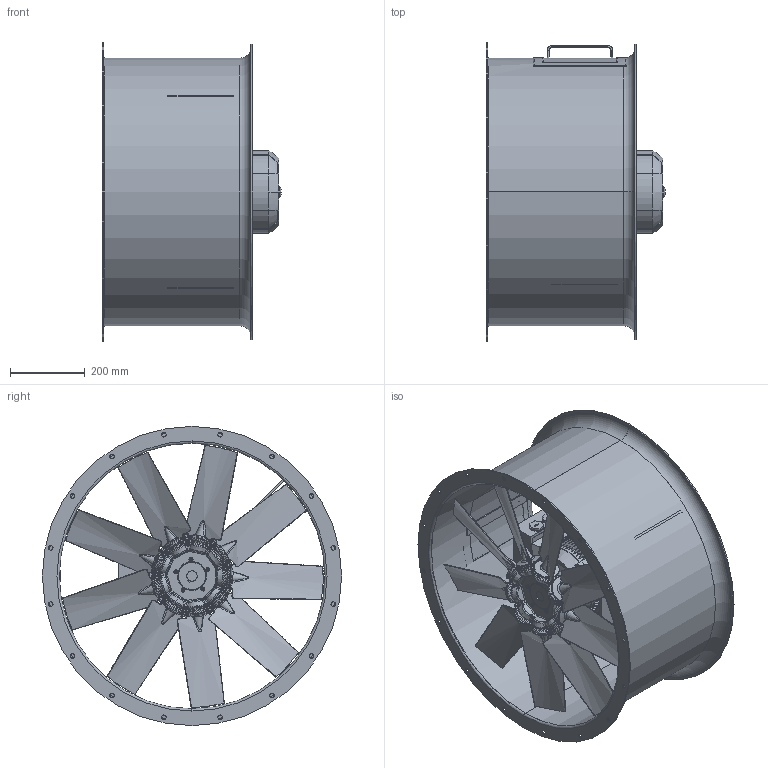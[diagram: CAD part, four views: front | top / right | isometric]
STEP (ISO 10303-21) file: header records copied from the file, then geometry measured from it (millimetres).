
FILE_DESCRIPTION (( 'STEP AP214' ), '1' );
FILE_NAME ('Assem_BRV 710_FF_L=400_mot.112_kort utf.STEP', '2020-09-03T06:59:24', ( '' ), ( '' ), 'SwSTEP 2.0', 'SolidWorks 2016', '' );
FILE_SCHEMA (( 'AUTOMOTIVE_DESIGN' ));
Length unit declared in the file: millimetre
Products named in the file (26): M8_C1-1 Bolt And Nuts - 702_9-9_29_PPG_4ZL_28_8_62_A-122724_7; Boss Bolt And Nuts - 702_9-9_29_PPG_4ZL_28_8_62_A-122724; C1-1-Nuts-Y63206000040_702_9-9_29_PPG_4ZL_28_8_62_A-122724; M8_C1-1 Bolt And Nuts - 702_9-9_29_PPG_4ZL_28_8_62_A-122724_6; 14100100049 - 702_9-9_29_PPG_4ZL_28_8_62_A-122724; 1TZ9 C 112M-4 4kW B3 IE3; 24000706200 - 702_9-9_29_PPG_4ZL_28_8_62_A-122724; C1-1-Bolt-Y62006350040_702_9-9_29_PPG_4ZL_28_8_62_A-122724; 21090708103 - 702_9-9_29_PPG_4ZL_28_8_62_A-122724; BRV 710_FF_L=400_mot.112_kort utf; BRV 710 Insp.luke 200x200; M8_C1-1 Bolt And Nuts - 702_9-9_29_PPG_4ZL_28_8_62_A-122724_3; M8_C1-1 Bolt And Nuts - 702_9-9_29_PPG_4ZL_28_8_62_A-122724; BB-Bolt-Y62006200040_702_9-9_29_PPG_4ZL_28_8_62_A-122724; Boss Bolt And Nuts - 702_9-9_29_PPG_4ZL_28_8_62_A-122724_5; Boss Bolt And Nuts - 702_9-9_29_PPG_4ZL_28_8_62_A-122724_3; 702_9-9_29_PPG_4ZL_28_8_62_A-122724; M8_C1-1 Bolt And Nuts - 702_9-9_29_PPG_4ZL_28_8_62_A-122724_9; M8_C1-1 Bolt And Nuts - 702_9-9_29_PPG_4ZL_28_8_62_A-122724_5; Assem_BRV 710_FF_L=400_mot.112_kort utf; Boss Bolt And Nuts - 702_9-9_29_PPG_4ZL_28_8_62_A-122724_2; BB-Nut-Y63206000040_702_9-9_29_PPG_4ZL_28_8_62_A-122724; M8_C1-1 Bolt And Nuts - 702_9-9_29_PPG_4ZL_28_8_62_A-122724_8; M8_C1-1 Bolt And Nuts - 702_9-9_29_PPG_4ZL_28_8_62_A-122724_2; M8_C1-1 Bolt And Nuts - 702_9-9_29_PPG_4ZL_28_8_62_A-122724_4; Boss Bolt And Nuts - 702_9-9_29_PPG_4ZL_28_8_62_A-122724_4
Assembly tree (58 placements, depth 4):
  Assem_BRV 710_FF_L=400_mot.112_kort utf
    BRV 710_FF_L=400_mot.112_kort utf
    1TZ9 C 112M-4 4kW B3 IE3
    BRV 710 Insp.luke 200x200
    702_9-9_29_PPG_4ZL_28_8_62_A-122724
      21090708103 - 702_9-9_29_PPG_4ZL_28_8_62_A-122724  x2
      14100100049 - 702_9-9_29_PPG_4ZL_28_8_62_A-122724  x9
      24000706200 - 702_9-9_29_PPG_4ZL_28_8_62_A-122724
      Boss Bolt And Nuts - 702_9-9_29_PPG_4ZL_28_8_62_A-122724
        BB-Bolt-Y62006200040_702_9-9_29_PPG_4ZL_28_8_62_A-122724
        BB-Nut-Y63206000040_702_9-9_29_PPG_4ZL_28_8_62_A-122724
      M8_C1-1 Bolt And Nuts - 702_9-9_29_PPG_4ZL_28_8_62_A-122724
        C1-1-Bolt-Y62006350040_702_9-9_29_PPG_4ZL_28_8_62_A-122724
        C1-1-Nuts-Y63206000040_702_9-9_29_PPG_4ZL_28_8_62_A-122724
      Boss Bolt And Nuts - 702_9-9_29_PPG_4ZL_28_8_62_A-122724_2
        BB-Bolt-Y62006200040_702_9-9_29_PPG_4ZL_28_8_62_A-122724
        BB-Nut-Y63206000040_702_9-9_29_PPG_4ZL_28_8_62_A-122724
      Boss Bolt And Nuts - 702_9-9_29_PPG_4ZL_28_8_62_A-122724_3
        BB-Bolt-Y62006200040_702_9-9_29_PPG_4ZL_28_8_62_A-122724
        BB-Nut-Y63206000040_702_9-9_29_PPG_4ZL_28_8_62_A-122724
      Boss Bolt And Nuts - 702_9-9_29_PPG_4ZL_28_8_62_A-122724_4
        BB-Bolt-Y62006200040_702_9-9_29_PPG_4ZL_28_8_62_A-122724
        BB-Nut-Y63206000040_702_9-9_29_PPG_4ZL_28_8_62_A-122724
      Boss Bolt And Nuts - 702_9-9_29_PPG_4ZL_28_8_62_A-122724_5
        BB-Bolt-Y62006200040_702_9-9_29_PPG_4ZL_28_8_62_A-122724
        BB-Nut-Y63206000040_702_9-9_29_PPG_4ZL_28_8_62_A-122724
      M8_C1-1 Bolt And Nuts - 702_9-9_29_PPG_4ZL_28_8_62_A-122724_2
        C1-1-Bolt-Y62006350040_702_9-9_29_PPG_4ZL_28_8_62_A-122724
        C1-1-Nuts-Y63206000040_702_9-9_29_PPG_4ZL_28_8_62_A-122724
      M8_C1-1 Bolt And Nuts - 702_9-9_29_PPG_4ZL_28_8_62_A-122724_3
        C1-1-Bolt-Y62006350040_702_9-9_29_PPG_4ZL_28_8_62_A-122724
        C1-1-Nuts-Y63206000040_702_9-9_29_PPG_4ZL_28_8_62_A-122724
      M8_C1-1 Bolt And Nuts - 702_9-9_29_PPG_4ZL_28_8_62_A-122724_4
        C1-1-Bolt-Y62006350040_702_9-9_29_PPG_4ZL_28_8_62_A-122724
        C1-1-Nuts-Y63206000040_702_9-9_29_PPG_4ZL_28_8_62_A-122724
      M8_C1-1 Bolt And Nuts - 702_9-9_29_PPG_4ZL_28_8_62_A-122724_5
        C1-1-Bolt-Y62006350040_702_9-9_29_PPG_4ZL_28_8_62_A-122724
        C1-1-Nuts-Y63206000040_702_9-9_29_PPG_4ZL_28_8_62_A-122724
      M8_C1-1 Bolt And Nuts - 702_9-9_29_PPG_4ZL_28_8_62_A-122724_6
        C1-1-Bolt-Y62006350040_702_9-9_29_PPG_4ZL_28_8_62_A-122724
        C1-1-Nuts-Y63206000040_702_9-9_29_PPG_4ZL_28_8_62_A-122724
      M8_C1-1 Bolt And Nuts - 702_9-9_29_PPG_4ZL_28_8_62_A-122724_7
        C1-1-Bolt-Y62006350040_702_9-9_29_PPG_4ZL_28_8_62_A-122724
        C1-1-Nuts-Y63206000040_702_9-9_29_PPG_4ZL_28_8_62_A-122724
      M8_C1-1 Bolt And Nuts - 702_9-9_29_PPG_4ZL_28_8_62_A-122724_8
        C1-1-Bolt-Y62006350040_702_9-9_29_PPG_4ZL_28_8_62_A-122724
        C1-1-Nuts-Y63206000040_702_9-9_29_PPG_4ZL_28_8_62_A-122724
      M8_C1-1 Bolt And Nuts - 702_9-9_29_PPG_4ZL_28_8_62_A-122724_9
        C1-1-Bolt-Y62006350040_702_9-9_29_PPG_4ZL_28_8_62_A-122724
        C1-1-Nuts-Y63206000040_702_9-9_29_PPG_4ZL_28_8_62_A-122724
Bounding box: 479 x 800 x 800 mm (x, y, z)
Volume: 19296758 mm3; surface area: 3837646.7 mm2
Topology: 45 solids, 45 shells, 3701 faces, 9079 edges, 5498 vertices
Faces by surface type: bspline 1686, plane 820, cone 604, cylinder 575, torus 16
Entity records: 78987 total; most frequent: CARTESIAN_POINT 39090, ORIENTED_EDGE 9222, DIRECTION 6813, EDGE_CURVE 4611, VERTEX_POINT 2877, AXIS2_PLACEMENT_3D 2595, EDGE_LOOP 1934, ADVANCED_FACE 1794
